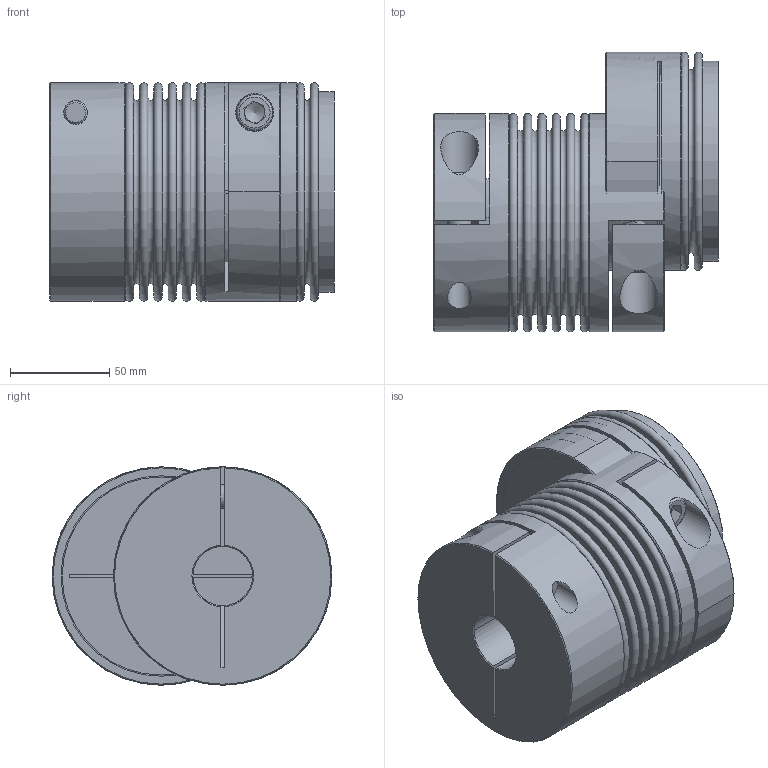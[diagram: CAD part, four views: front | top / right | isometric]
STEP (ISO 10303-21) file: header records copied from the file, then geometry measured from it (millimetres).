
FILE_DESCRIPTION( ( 'Unknown' ), '1' );
FILE_NAME( 'C:/Dokumente und Einstellungen/Sven/Desktop/cad - homepage/KB4/KB4-300-116.stp', 'Unknown', ( 'Unknown' ), ( 'Unknown' ), 'XStep 1.0', 'Unknown', ' ' );
FILE_SCHEMA( ( 'automotive_design' ) );
Length unit declared in the file: millimetre
Products named in the file (4): Assem1; BL300_Standard; Socket Head Cap Screw_DIN_DIN 912 M12 x 40 --- 40N; KN300_Standard_0
Bounding box: 143.31 x 140.91 x 110 mm (x, y, z)
Volume: 1005513.8 mm3; surface area: 324385.4 mm2
Topology: 8 solids, 8 shells, 233 faces, 471 edges, 305 vertices
Faces by surface type: plane 124, torus 50, cylinder 41, cone 18
Full cylindrical faces by diameter (mm): 12 x6, 12.5 x3, 18 x3, 19 x3, 30 x3, 99.8 x4, 101 x4, 110 x3
Entity records: 2570 total; most frequent: CARTESIAN_POINT 541, DIRECTION 409, ORIENTED_EDGE 268, AXIS2_PLACEMENT_3D 185, EDGE_LOOP 164, EDGE_CURVE 134, FACE_OUTER_BOUND 128, VERTEX_POINT 111
